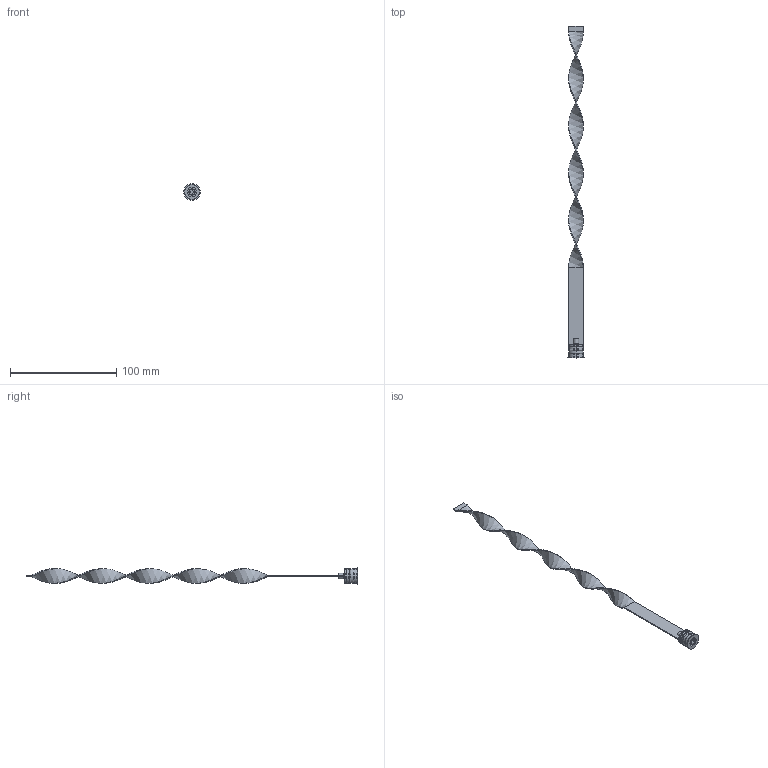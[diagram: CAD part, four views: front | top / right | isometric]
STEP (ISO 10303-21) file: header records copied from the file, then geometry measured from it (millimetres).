
FILE_DESCRIPTION (( 'STEP AP203' ), '1' );
FILE_NAME ('RLS-14Fx300.STEP', '2015-12-09T14:38:56', ( 'Balzi' ), ( '' ), 'SwSTEP 2.0', 'SolidWorks 2015', '' );
FILE_SCHEMA (( 'CONFIG_CONTROL_DESIGN' ));
Length unit declared in the file: millimetre
Products named in the file (1): RLS-14Fx300
Bounding box: 15.3 x 312.5 x 15.3 mm (x, y, z)
Volume: 5992 mm3; surface area: 10382 mm2
Topology: 1 solids, 1 shells, 80 faces, 187 edges, 113 vertices
Faces by surface type: plane 34, cylinder 17, cone 17, torus 8, bspline 4
Entity records: 4257 total; most frequent: CARTESIAN_POINT 2367, DIRECTION 386, ORIENTED_EDGE 374, EDGE_CURVE 187, AXIS2_PLACEMENT_3D 144, VERTEX_POINT 113, VECTOR 98, LINE 98
